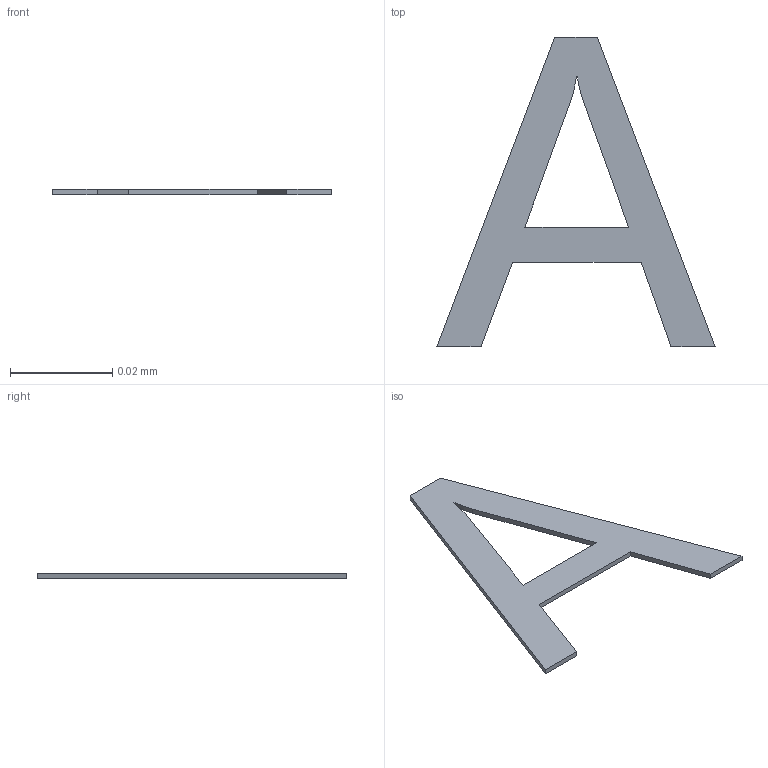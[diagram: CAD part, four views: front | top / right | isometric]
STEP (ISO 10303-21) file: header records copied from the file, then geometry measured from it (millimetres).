
FILE_DESCRIPTION(/* description */ ('STEP AP242 Edition 2','CAx-IF Rec.Pracs.---Representation and Presentation of Product Manufacturing Information (PMI)---4.0---2014-10-13','CAx-IF Rec.Pracs.---3D Tessellated Geometry---0.4---2014-09-14','2;1','CAx-IF Rec.Pracs.---User Defined Attributes---1.5---2016-08-15'),/* implementation_level */ '2;1');
FILE_NAME(/* name */ 'Assembly 1 - SOT-23-6_L2.9-W1.6-P0.95-LS2.8-BL~SOT-23-6_L2.9-W1.6-H1.5-LS2.8-P0.95~nxQB (16)',/* time_stamp */ '2026-04-02T09:55:24Z',/* author */ (''),/* organization */ (''),/* preprocessor_version */ 'ST-DEVELOPER v20',/* originating_system */ 'ONSHAPE BY PTC INC, 1.212',/* authorisation */ ' ');
FILE_SCHEMA (('AP242_MANAGED_MODEL_BASED_3D_ENGINEERING_MIM_LF { 1 0 10303 442 3 1 4 }'));
Length unit declared in the file: metre
Products named in the file (1): SOT-23-6_L2.9-W1.6-P0.95-LS2.8-BL~SOT-23-6_L2.9-W1.6-H1.5-LS2.8-P0.95
~nxQB
Bounding box: 0.05 x 0.06 x 0 mm (x, y, z)
Volume: 0 mm3; surface area: 0 mm2
Topology: 1 solids, 1 shells, 16 faces, 42 edges, 28 vertices
Faces by surface type: plane 14, bspline 2
Entity records: 637 total; most frequent: CARTESIAN_POINT 113, ORIENTED_EDGE 84, DIRECTION 68, EDGE_CURVE 42, LINE 38, VECTOR 38, VERTEX_POINT 28, EDGE_LOOP 18
